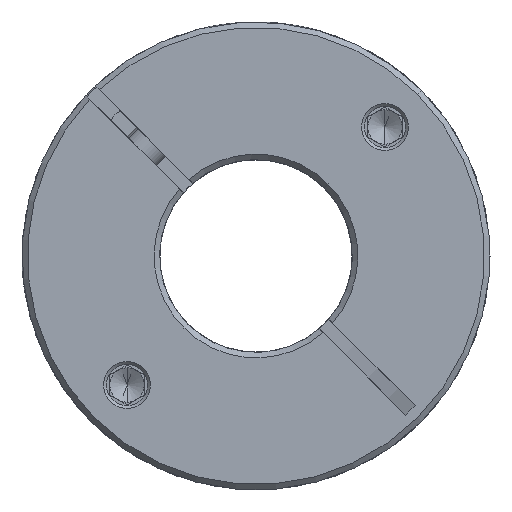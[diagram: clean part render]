
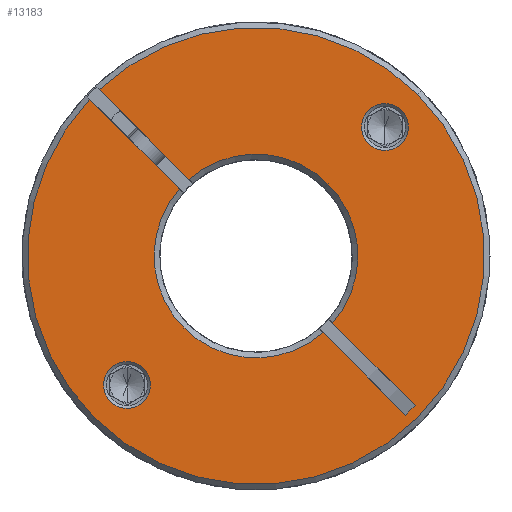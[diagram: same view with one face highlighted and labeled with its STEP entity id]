
A CAD part, front view. The second image highlights one B-rep face of the part: STEP entity #13183.
In plain terms, the highlighted planar face has unit normal (0, -1, 0).
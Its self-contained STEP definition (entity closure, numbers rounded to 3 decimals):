
#100 = CARTESIAN_POINT ( 'NONE',  ( 20.741, -67.045, 91.476 ) ) ;
#594 = CARTESIAN_POINT ( 'NONE',  ( 16.003, -67.045, 86.738 ) ) ;
#716 = CARTESIAN_POINT ( 'NONE',  ( 18.988, -67.045, 44.862 ) ) ;
#859 = LINE ( 'NONE', #20812, #3208 ) ;
#970 = ORIENTED_EDGE ( 'NONE', *, *, #17501, .T. ) ;
#978 = PLANE ( 'NONE',  #17819 ) ;
#1078 = DIRECTION ( 'NONE',  ( 0., 1., 0. ) ) ;
#1084 = CIRCLE ( 'NONE', #11115, 33.2 ) ;
#1393 = VECTOR ( 'NONE', #13811, 1000. ) ;
#1410 = EDGE_LOOP ( 'NONE', ( #14349, #9711, #6121, #2091, #5008, #19639, #8771, #3335, #13401, #17521, #4458 ) ) ;
#1660 = VERTEX_POINT ( 'NONE', #5746 ) ;
#2058 = EDGE_LOOP ( 'NONE', ( #10775, #3413 ) ) ;
#2061 = EDGE_CURVE ( 'NONE', #5903, #13723, #3940, .T. ) ;
#2091 = ORIENTED_EDGE ( 'NONE', *, *, #2413, .T. ) ;
#2210 = DIRECTION ( 'NONE',  ( 0., 1., 0. ) ) ;
#2413 = EDGE_CURVE ( 'NONE', #14999, #7736, #1084, .T. ) ;
#2721 = AXIS2_PLACEMENT_3D ( 'NONE', #13265, #11897, #7053 ) ;
#2958 = EDGE_CURVE ( 'NONE', #3807, #14568, #15912, .T. ) ;
#3052 = CIRCLE ( 'NONE', #5834, 14.8 ) ;
#3208 = VECTOR ( 'NONE', #9363, 1000. ) ;
#3302 = CIRCLE ( 'NONE', #5684, 33.2 ) ;
#3335 = ORIENTED_EDGE ( 'NONE', *, *, #7844, .T. ) ;
#3413 = ORIENTED_EDGE ( 'NONE', *, *, #2958, .T. ) ;
#3418 = LINE ( 'NONE', #17921, #18875 ) ;
#3741 = CARTESIAN_POINT ( 'NONE',  ( -2.735, -67.045, 68. ) ) ;
#3807 = VERTEX_POINT ( 'NONE', #13559 ) ;
#3940 = LINE ( 'NONE', #17997, #4453 ) ;
#4113 = DIRECTION ( 'NONE',  ( 0., 1., 0. ) ) ;
#4453 = VECTOR ( 'NONE', #9708, 1000. ) ;
#4458 = ORIENTED_EDGE ( 'NONE', *, *, #10338, .T. ) ;
#4503 = CARTESIAN_POINT ( 'NONE',  ( -25.493, -67.045, 92.172 ) ) ;
#5008 = ORIENTED_EDGE ( 'NONE', *, *, #12724, .T. ) ;
#5075 = CARTESIAN_POINT ( 'NONE',  ( 20.402, -67.045, 46.277 ) ) ;
#5475 = CARTESIAN_POINT ( 'NONE',  ( -21.473, -67.045, 49.262 ) ) ;
#5534 = DIRECTION ( 'NONE',  ( 0., 1., 0. ) ) ;
#5538 = DIRECTION ( 'NONE',  ( 0.707, 0., 0.707 ) ) ;
#5640 = CIRCLE ( 'NONE', #11681, 14.8 ) ;
#5684 = AXIS2_PLACEMENT_3D ( 'NONE', #3741, #15176, #16873 ) ;
#5698 = DIRECTION ( 'NONE',  ( 0.707, 0., 0.707 ) ) ;
#5746 = CARTESIAN_POINT ( 'NONE',  ( -12.469, -67.045, 79.148 ) ) ;
#5807 = CIRCLE ( 'NONE', #15692, 3.4 ) ;
#5834 = AXIS2_PLACEMENT_3D ( 'NONE', #20808, #1078, #21167 ) ;
#5903 = VERTEX_POINT ( 'NONE', #13397 ) ;
#6121 = ORIENTED_EDGE ( 'NONE', *, *, #19655, .T. ) ;
#6289 = EDGE_LOOP ( 'NONE', ( #8159, #970 ) ) ;
#6596 = VERTEX_POINT ( 'NONE', #14181 ) ;
#6969 = EDGE_CURVE ( 'NONE', #7757, #6596, #19678, .T. ) ;
#7053 = DIRECTION ( 'NONE',  ( 0.707, 0., 0.707 ) ) ;
#7054 = VERTEX_POINT ( 'NONE', #5075 ) ;
#7264 = LINE ( 'NONE', #10812, #17258 ) ;
#7280 = DIRECTION ( 'NONE',  ( 0.707, 0., 0.707 ) ) ;
#7537 = CARTESIAN_POINT ( 'NONE',  ( 18.988, -67.045, 44.862 ) ) ;
#7732 = CARTESIAN_POINT ( 'NONE',  ( -21.473, -67.045, 49.262 ) ) ;
#7736 = VERTEX_POINT ( 'NONE', #4503 ) ;
#7757 = VERTEX_POINT ( 'NONE', #15430 ) ;
#7844 = EDGE_CURVE ( 'NONE', #9414, #7054, #3418, .T. ) ;
#8075 = DIRECTION ( 'NONE',  ( 0.707, 0., -0.707 ) ) ;
#8159 = ORIENTED_EDGE ( 'NONE', *, *, #15718, .T. ) ;
#8185 = VERTEX_POINT ( 'NONE', #13844 ) ;
#8326 = FACE_OUTER_BOUND ( 'NONE', #1410, .T. ) ;
#8360 = CARTESIAN_POINT ( 'NONE',  ( 18.407, -67.045, 89.142 ) ) ;
#8724 = DIRECTION ( 'NONE',  ( 0., 1., 0. ) ) ;
#8771 = ORIENTED_EDGE ( 'NONE', *, *, #9989, .T. ) ;
#9079 = VERTEX_POINT ( 'NONE', #14037 ) ;
#9112 = LINE ( 'NONE', #716, #1393 ) ;
#9363 = DIRECTION ( 'NONE',  ( 0.707, 0., -0.707 ) ) ;
#9414 = VERTEX_POINT ( 'NONE', #10503 ) ;
#9481 = DIRECTION ( 'NONE',  ( 0., -1., 0. ) ) ;
#9561 = CARTESIAN_POINT ( 'NONE',  ( -2.735, -67.045, 68. ) ) ;
#9708 = DIRECTION ( 'NONE',  ( 0.707, 0., -0.707 ) ) ;
#9711 = ORIENTED_EDGE ( 'NONE', *, *, #6969, .T. ) ;
#9989 = EDGE_CURVE ( 'NONE', #8185, #9414, #3052, .T. ) ;
#10100 = FACE_BOUND ( 'NONE', #2058, .T. ) ;
#10338 = EDGE_CURVE ( 'NONE', #5903, #21222, #5640, .T. ) ;
#10503 = CARTESIAN_POINT ( 'NONE',  ( 8.413, -67.045, 58.266 ) ) ;
#10572 = CARTESIAN_POINT ( 'NONE',  ( 16.003, -67.045, 86.738 ) ) ;
#10596 = CARTESIAN_POINT ( 'NONE',  ( -2.735, -67.045, 68. ) ) ;
#10775 = ORIENTED_EDGE ( 'NONE', *, *, #12556, .T. ) ;
#10812 = CARTESIAN_POINT ( 'NONE',  ( -3.442, -67.045, 67.293 ) ) ;
#11017 = CARTESIAN_POINT ( 'NONE',  ( -19.069, -67.045, 51.666 ) ) ;
#11081 = DIRECTION ( 'NONE',  ( 0.707, 0., 0.707 ) ) ;
#11115 = AXIS2_PLACEMENT_3D ( 'NONE', #12769, #16288, #12835 ) ;
#11472 = AXIS2_PLACEMENT_3D ( 'NONE', #5475, #8724, #5538 ) ;
#11681 = AXIS2_PLACEMENT_3D ( 'NONE', #10596, #4113, #18628 ) ;
#11897 = DIRECTION ( 'NONE',  ( 0., 1., 0. ) ) ;
#12072 = DIRECTION ( 'NONE',  ( 0.707, 0., 0.707 ) ) ;
#12525 = DIRECTION ( 'NONE',  ( 0., 1., 0. ) ) ;
#12556 = EDGE_CURVE ( 'NONE', #14568, #3807, #5807, .T. ) ;
#12612 = EDGE_CURVE ( 'NONE', #7054, #13723, #9112, .T. ) ;
#12724 = EDGE_CURVE ( 'NONE', #7736, #1660, #859, .T. ) ;
#12769 = CARTESIAN_POINT ( 'NONE',  ( -2.735, -67.045, 68. ) ) ;
#12792 = AXIS2_PLACEMENT_3D ( 'NONE', #594, #2210, #5698 ) ;
#12835 = DIRECTION ( 'NONE',  ( 0.707, 0., 0.707 ) ) ;
#13183 = ADVANCED_FACE ( 'NONE', ( #10100, #16804, #8326 ), #978, .T. ) ;
#13265 = CARTESIAN_POINT ( 'NONE',  ( -2.735, -67.045, 68. ) ) ;
#13397 = CARTESIAN_POINT ( 'NONE',  ( 6.999, -67.045, 56.852 ) ) ;
#13401 = ORIENTED_EDGE ( 'NONE', *, *, #12612, .T. ) ;
#13559 = CARTESIAN_POINT ( 'NONE',  ( 13.599, -67.045, 84.334 ) ) ;
#13604 = CIRCLE ( 'NONE', #11472, 3.4 ) ;
#13723 = VERTEX_POINT ( 'NONE', #7537 ) ;
#13799 = VERTEX_POINT ( 'NONE', #11017 ) ;
#13811 = DIRECTION ( 'NONE',  ( -0.707, 0., -0.707 ) ) ;
#13844 = CARTESIAN_POINT ( 'NONE',  ( 7.73, -67.045, 78.465 ) ) ;
#14037 = CARTESIAN_POINT ( 'NONE',  ( -23.878, -67.045, 46.858 ) ) ;
#14112 = AXIS2_PLACEMENT_3D ( 'NONE', #9561, #9481, #14508 ) ;
#14181 = CARTESIAN_POINT ( 'NONE',  ( -26.211, -67.045, 44.524 ) ) ;
#14349 = ORIENTED_EDGE ( 'NONE', *, *, #15299, .F. ) ;
#14508 = DIRECTION ( 'NONE',  ( 0.707, 0., 0.707 ) ) ;
#14568 = VERTEX_POINT ( 'NONE', #8360 ) ;
#14999 = VERTEX_POINT ( 'NONE', #100 ) ;
#15176 = DIRECTION ( 'NONE',  ( 0., -1., 0. ) ) ;
#15299 = EDGE_CURVE ( 'NONE', #7757, #21222, #7264, .T. ) ;
#15422 = CARTESIAN_POINT ( 'NONE',  ( -2.735, -67.045, 68. ) ) ;
#15430 = CARTESIAN_POINT ( 'NONE',  ( -26.908, -67.045, 90.758 ) ) ;
#15692 = AXIS2_PLACEMENT_3D ( 'NONE', #10572, #5534, #12072 ) ;
#15718 = EDGE_CURVE ( 'NONE', #13799, #9079, #13604, .T. ) ;
#15912 = CIRCLE ( 'NONE', #12792, 3.4 ) ;
#16288 = DIRECTION ( 'NONE',  ( 0., -1., 0. ) ) ;
#16804 = FACE_BOUND ( 'NONE', #6289, .T. ) ;
#16873 = DIRECTION ( 'NONE',  ( 0.707, 0., 0.707 ) ) ;
#17235 = CIRCLE ( 'NONE', #2721, 14.8 ) ;
#17258 = VECTOR ( 'NONE', #18795, 1000. ) ;
#17501 = EDGE_CURVE ( 'NONE', #9079, #13799, #21386, .T. ) ;
#17521 = ORIENTED_EDGE ( 'NONE', *, *, #2061, .F. ) ;
#17819 = AXIS2_PLACEMENT_3D ( 'NONE', #15422, #18962, #7280 ) ;
#17921 = CARTESIAN_POINT ( 'NONE',  ( -2.028, -67.045, 68.707 ) ) ;
#17997 = CARTESIAN_POINT ( 'NONE',  ( -3.442, -67.045, 67.293 ) ) ;
#18143 = EDGE_CURVE ( 'NONE', #1660, #8185, #17235, .T. ) ;
#18628 = DIRECTION ( 'NONE',  ( 0.707, 0., 0.707 ) ) ;
#18795 = DIRECTION ( 'NONE',  ( 0.707, 0., -0.707 ) ) ;
#18801 = CARTESIAN_POINT ( 'NONE',  ( -13.883, -67.045, 77.734 ) ) ;
#18875 = VECTOR ( 'NONE', #8075, 1000. ) ;
#18962 = DIRECTION ( 'NONE',  ( 0., -1., 0. ) ) ;
#19291 = AXIS2_PLACEMENT_3D ( 'NONE', #7732, #12525, #11081 ) ;
#19639 = ORIENTED_EDGE ( 'NONE', *, *, #18143, .T. ) ;
#19655 = EDGE_CURVE ( 'NONE', #6596, #14999, #3302, .T. ) ;
#19678 = CIRCLE ( 'NONE', #14112, 33.2 ) ;
#20808 = CARTESIAN_POINT ( 'NONE',  ( -2.735, -67.045, 68. ) ) ;
#20812 = CARTESIAN_POINT ( 'NONE',  ( -2.028, -67.045, 68.707 ) ) ;
#21167 = DIRECTION ( 'NONE',  ( 0.707, 0., 0.707 ) ) ;
#21222 = VERTEX_POINT ( 'NONE', #18801 ) ;
#21386 = CIRCLE ( 'NONE', #19291, 3.4 ) ;
